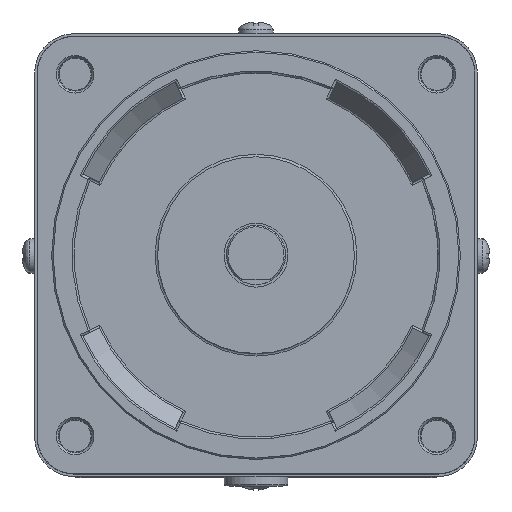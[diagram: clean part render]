
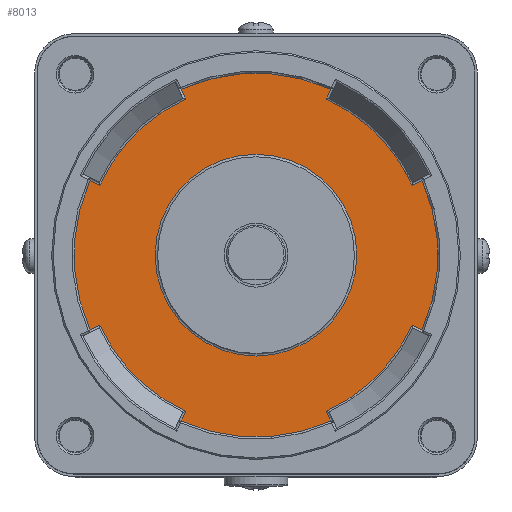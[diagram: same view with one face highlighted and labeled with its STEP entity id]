
A CAD part, top view. The second image highlights one B-rep face of the part: STEP entity #8013.
In plain terms, the highlighted planar face has unit normal (0, 0, 1).
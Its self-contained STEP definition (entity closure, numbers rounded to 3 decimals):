
#34 = DIRECTION ( 'NONE',  ( 0., 0., 1. ) ) ;
#95 = CARTESIAN_POINT ( 'NONE',  ( 0., 0., -2. ) ) ;
#292 = AXIS2_PLACEMENT_3D ( 'NONE', #9441, #4050, #3107 ) ;
#426 = CARTESIAN_POINT ( 'NONE',  ( 0.211, 0.453, -2. ) ) ;
#466 = VERTEX_POINT ( 'NONE', #5202 ) ;
#476 = VERTEX_POINT ( 'NONE', #6206 ) ;
#575 = ORIENTED_EDGE ( 'NONE', *, *, #2110, .T. ) ;
#611 = CARTESIAN_POINT ( 'NONE',  ( -31.725, -14.242, -2. ) ) ;
#660 = CARTESIAN_POINT ( 'NONE',  ( 0., 0., -2. ) ) ;
#664 = DIRECTION ( 'NONE',  ( 1., 0., 0. ) ) ;
#697 = VECTOR ( 'NONE', #757, 1000. ) ;
#757 = DIRECTION ( 'NONE',  ( 0.906, 0.423, 0. ) ) ;
#832 = VECTOR ( 'NONE', #3322, 1000. ) ;
#925 = CIRCLE ( 'NONE', #292, 34.775 ) ;
#927 = CIRCLE ( 'NONE', #3778, 36.987 ) ;
#999 = AXIS2_PLACEMENT_3D ( 'NONE', #6303, #34, #4410 ) ;
#1273 = VERTEX_POINT ( 'NONE', #3276 ) ;
#1286 = VERTEX_POINT ( 'NONE', #13466 ) ;
#1296 = ORIENTED_EDGE ( 'NONE', *, *, #11331, .T. ) ;
#1581 = ORIENTED_EDGE ( 'NONE', *, *, #1626, .T. ) ;
#1626 = EDGE_CURVE ( 'NONE', #8489, #5239, #8486, .T. ) ;
#1645 = LINE ( 'NONE', #426, #5656 ) ;
#1796 = CARTESIAN_POINT ( 'NONE',  ( 14.242, 31.725, -2. ) ) ;
#1845 = VECTOR ( 'NONE', #8226, 1000. ) ;
#1848 = VERTEX_POINT ( 'NONE', #3662 ) ;
#2010 = EDGE_CURVE ( 'NONE', #13308, #3098, #1645, .T. ) ;
#2012 = DIRECTION ( 'NONE',  ( -0.906, -0.423, 0. ) ) ;
#2110 = EDGE_CURVE ( 'NONE', #3922, #3922, #9328, .T. ) ;
#2196 = DIRECTION ( 'NONE',  ( 0., 0., 1. ) ) ;
#2220 = CARTESIAN_POINT ( 'NONE',  ( -0.211, -0.453, -2. ) ) ;
#2473 = CARTESIAN_POINT ( 'NONE',  ( -33.73, 15.177, -2. ) ) ;
#2535 = CARTESIAN_POINT ( 'NONE',  ( 31.725, 14.242, -2. ) ) ;
#2743 = LINE ( 'NONE', #12323, #5188 ) ;
#2953 = AXIS2_PLACEMENT_3D ( 'NONE', #8298, #9256, #4078 ) ;
#3098 = VERTEX_POINT ( 'NONE', #4731 ) ;
#3107 = DIRECTION ( 'NONE',  ( 1., 0., 0. ) ) ;
#3110 = VECTOR ( 'NONE', #11602, 1000. ) ;
#3276 = CARTESIAN_POINT ( 'NONE',  ( -14.242, -31.725, -2. ) ) ;
#3322 = DIRECTION ( 'NONE',  ( -0.906, 0.423, 0. ) ) ;
#3325 = DIRECTION ( 'NONE',  ( 0., 0., 1. ) ) ;
#3330 = CARTESIAN_POINT ( 'NONE',  ( 31.725, -14.242, -2. ) ) ;
#3480 = AXIS2_PLACEMENT_3D ( 'NONE', #12853, #3799, #664 ) ;
#3509 = ORIENTED_EDGE ( 'NONE', *, *, #9417, .T. ) ;
#3662 = CARTESIAN_POINT ( 'NONE',  ( 14.242, -31.725, -2. ) ) ;
#3711 = ORIENTED_EDGE ( 'NONE', *, *, #5044, .T. ) ;
#3778 = AXIS2_PLACEMENT_3D ( 'NONE', #8621, #3325, #11824 ) ;
#3799 = DIRECTION ( 'NONE',  ( 0., 0., -1. ) ) ;
#3842 = ORIENTED_EDGE ( 'NONE', *, *, #12261, .T. ) ;
#3884 = CARTESIAN_POINT ( 'NONE',  ( -31.725, 14.242, -2. ) ) ;
#3922 = VERTEX_POINT ( 'NONE', #10319 ) ;
#4021 = CARTESIAN_POINT ( 'NONE',  ( -31.932, -14.338, -2. ) ) ;
#4023 = EDGE_CURVE ( 'NONE', #13392, #466, #7482, .T. ) ;
#4050 = DIRECTION ( 'NONE',  ( 0., 0., 1. ) ) ;
#4078 = DIRECTION ( 'NONE',  ( 1., 0., 0. ) ) ;
#4109 = CARTESIAN_POINT ( 'NONE',  ( 0., 0., -2. ) ) ;
#4256 = ORIENTED_EDGE ( 'NONE', *, *, #9111, .T. ) ;
#4410 = DIRECTION ( 'NONE',  ( 1., 0., 0. ) ) ;
#4431 = EDGE_CURVE ( 'NONE', #1286, #9666, #8161, .T. ) ;
#4558 = CARTESIAN_POINT ( 'NONE',  ( -15.177, 33.73, -2. ) ) ;
#4731 = CARTESIAN_POINT ( 'NONE',  ( 33.73, -15.177, -2. ) ) ;
#4822 = DIRECTION ( 'NONE',  ( 1., 0., 0. ) ) ;
#5044 = EDGE_CURVE ( 'NONE', #5239, #8933, #11879, .T. ) ;
#5149 = DIRECTION ( 'NONE',  ( 0., 0., 1. ) ) ;
#5188 = VECTOR ( 'NONE', #12267, 1000. ) ;
#5202 = CARTESIAN_POINT ( 'NONE',  ( -14.242, 31.725, -2. ) ) ;
#5230 = VERTEX_POINT ( 'NONE', #2473 ) ;
#5239 = VERTEX_POINT ( 'NONE', #2535 ) ;
#5284 = AXIS2_PLACEMENT_3D ( 'NONE', #95, #12355, #8197 ) ;
#5639 = VECTOR ( 'NONE', #2012, 1000. ) ;
#5656 = VECTOR ( 'NONE', #7643, 1000. ) ;
#5691 = EDGE_CURVE ( 'NONE', #476, #13392, #7309, .T. ) ;
#5803 = AXIS2_PLACEMENT_3D ( 'NONE', #8386, #2196, #10243 ) ;
#6006 = VERTEX_POINT ( 'NONE', #611 ) ;
#6202 = FACE_OUTER_BOUND ( 'NONE', #11164, .T. ) ;
#6206 = CARTESIAN_POINT ( 'NONE',  ( 15.177, 33.73, -2. ) ) ;
#6238 = ORIENTED_EDGE ( 'NONE', *, *, #8788, .T. ) ;
#6303 = CARTESIAN_POINT ( 'NONE',  ( 0., 0., -2. ) ) ;
#6764 = AXIS2_PLACEMENT_3D ( 'NONE', #660, #13048, #4822 ) ;
#7032 = EDGE_LOOP ( 'NONE', ( #575 ) ) ;
#7222 = DIRECTION ( 'NONE',  ( 1., 0., 0. ) ) ;
#7266 = CARTESIAN_POINT ( 'NONE',  ( -14.338, 31.932, -2. ) ) ;
#7309 = CIRCLE ( 'NONE', #999, 36.987 ) ;
#7311 = CARTESIAN_POINT ( 'NONE',  ( 31.932, 14.338, -2. ) ) ;
#7354 = ORIENTED_EDGE ( 'NONE', *, *, #12417, .T. ) ;
#7482 = LINE ( 'NONE', #7266, #1845 ) ;
#7510 = LINE ( 'NONE', #8470, #3110 ) ;
#7524 = CARTESIAN_POINT ( 'NONE',  ( -0.453, 0.211, -2. ) ) ;
#7591 = CARTESIAN_POINT ( 'NONE',  ( 15.177, -33.73, -2. ) ) ;
#7643 = DIRECTION ( 'NONE',  ( 0.906, -0.423, 0. ) ) ;
#7669 = DIRECTION ( 'NONE',  ( 0.423, 0.906, 0. ) ) ;
#7694 = EDGE_CURVE ( 'NONE', #12944, #5230, #10668, .T. ) ;
#7903 = CIRCLE ( 'NONE', #5284, 34.775 ) ;
#7918 = VERTEX_POINT ( 'NONE', #11125 ) ;
#7923 = ORIENTED_EDGE ( 'NONE', *, *, #7694, .T. ) ;
#8013 = ADVANCED_FACE ( 'NONE', ( #6202, #9282 ), #13422, .T. ) ;
#8161 = CIRCLE ( 'NONE', #2953, 36.987 ) ;
#8197 = DIRECTION ( 'NONE',  ( 1., 0., 0. ) ) ;
#8226 = DIRECTION ( 'NONE',  ( 0.423, -0.906, 0. ) ) ;
#8247 = AXIS2_PLACEMENT_3D ( 'NONE', #4109, #8256, #7222 ) ;
#8256 = DIRECTION ( 'NONE',  ( 0., 0., 1. ) ) ;
#8298 = CARTESIAN_POINT ( 'NONE',  ( 0., 0., -2. ) ) ;
#8386 = CARTESIAN_POINT ( 'NONE',  ( 0., 0., -2. ) ) ;
#8470 = CARTESIAN_POINT ( 'NONE',  ( 14.338, -31.932, -2. ) ) ;
#8486 = LINE ( 'NONE', #7311, #5639 ) ;
#8489 = VERTEX_POINT ( 'NONE', #9046 ) ;
#8508 = CIRCLE ( 'NONE', #6764, 34.775 ) ;
#8621 = CARTESIAN_POINT ( 'NONE',  ( 0., 0., -2. ) ) ;
#8788 = EDGE_CURVE ( 'NONE', #3098, #8489, #927, .T. ) ;
#8933 = VERTEX_POINT ( 'NONE', #1796 ) ;
#9010 = LINE ( 'NONE', #4021, #697 ) ;
#9046 = CARTESIAN_POINT ( 'NONE',  ( 33.73, 15.177, -2. ) ) ;
#9111 = EDGE_CURVE ( 'NONE', #9666, #1848, #7510, .T. ) ;
#9256 = DIRECTION ( 'NONE',  ( 0., 0., 1. ) ) ;
#9275 = ORIENTED_EDGE ( 'NONE', *, *, #12257, .T. ) ;
#9282 = FACE_BOUND ( 'NONE', #7032, .T. ) ;
#9304 = DIRECTION ( 'NONE',  ( 1., 0., 0. ) ) ;
#9328 = CIRCLE ( 'NONE', #3480, 20.5 ) ;
#9417 = EDGE_CURVE ( 'NONE', #6006, #1273, #8508, .T. ) ;
#9441 = CARTESIAN_POINT ( 'NONE',  ( 0., 0., -2. ) ) ;
#9605 = ORIENTED_EDGE ( 'NONE', *, *, #10290, .T. ) ;
#9630 = AXIS2_PLACEMENT_3D ( 'NONE', #12176, #5149, #9304 ) ;
#9666 = VERTEX_POINT ( 'NONE', #7591 ) ;
#10243 = DIRECTION ( 'NONE',  ( 1., 0., 0. ) ) ;
#10290 = EDGE_CURVE ( 'NONE', #7918, #6006, #9010, .T. ) ;
#10319 = CARTESIAN_POINT ( 'NONE',  ( 20.5, 0., -2. ) ) ;
#10585 = ORIENTED_EDGE ( 'NONE', *, *, #4023, .T. ) ;
#10668 = LINE ( 'NONE', #2220, #832 ) ;
#11016 = ORIENTED_EDGE ( 'NONE', *, *, #5691, .T. ) ;
#11125 = CARTESIAN_POINT ( 'NONE',  ( -33.73, -15.177, -2. ) ) ;
#11164 = EDGE_LOOP ( 'NONE', ( #13094, #6238, #1581, #3711, #7354, #11016, #10585, #9275, #7923, #12299, #9605, #3509, #1296, #12007, #4256, #3842 ) ) ;
#11331 = EDGE_CURVE ( 'NONE', #1273, #1286, #2743, .T. ) ;
#11602 = DIRECTION ( 'NONE',  ( -0.423, 0.906, 0. ) ) ;
#11824 = DIRECTION ( 'NONE',  ( 1., 0., 0. ) ) ;
#11879 = CIRCLE ( 'NONE', #5803, 34.775 ) ;
#12007 = ORIENTED_EDGE ( 'NONE', *, *, #4431, .T. ) ;
#12176 = CARTESIAN_POINT ( 'NONE',  ( 0., 0., -2. ) ) ;
#12257 = EDGE_CURVE ( 'NONE', #466, #12944, #925, .T. ) ;
#12261 = EDGE_CURVE ( 'NONE', #1848, #13308, #7903, .T. ) ;
#12267 = DIRECTION ( 'NONE',  ( -0.423, -0.906, 0. ) ) ;
#12299 = ORIENTED_EDGE ( 'NONE', *, *, #13160, .T. ) ;
#12323 = CARTESIAN_POINT ( 'NONE',  ( 0.453, -0.211, -2. ) ) ;
#12355 = DIRECTION ( 'NONE',  ( 0., 0., 1. ) ) ;
#12417 = EDGE_CURVE ( 'NONE', #8933, #476, #12699, .T. ) ;
#12432 = CIRCLE ( 'NONE', #9630, 36.987 ) ;
#12699 = LINE ( 'NONE', #7524, #13095 ) ;
#12853 = CARTESIAN_POINT ( 'NONE',  ( 0., 0., -2. ) ) ;
#12944 = VERTEX_POINT ( 'NONE', #3884 ) ;
#13048 = DIRECTION ( 'NONE',  ( 0., 0., 1. ) ) ;
#13094 = ORIENTED_EDGE ( 'NONE', *, *, #2010, .T. ) ;
#13095 = VECTOR ( 'NONE', #7669, 1000. ) ;
#13160 = EDGE_CURVE ( 'NONE', #5230, #7918, #12432, .T. ) ;
#13308 = VERTEX_POINT ( 'NONE', #3330 ) ;
#13392 = VERTEX_POINT ( 'NONE', #4558 ) ;
#13422 = PLANE ( 'NONE',  #8247 ) ;
#13466 = CARTESIAN_POINT ( 'NONE',  ( -15.177, -33.73, -2. ) ) ;
